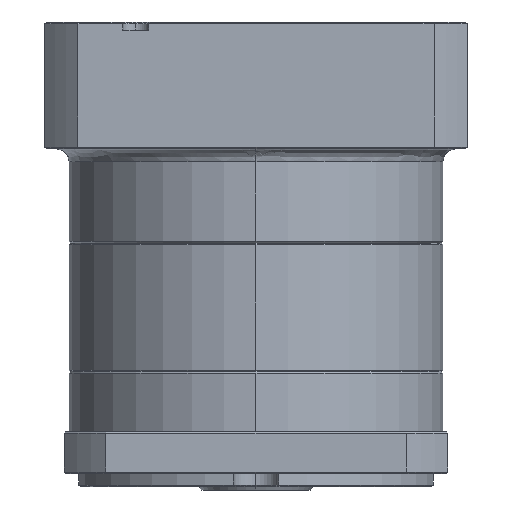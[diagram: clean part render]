
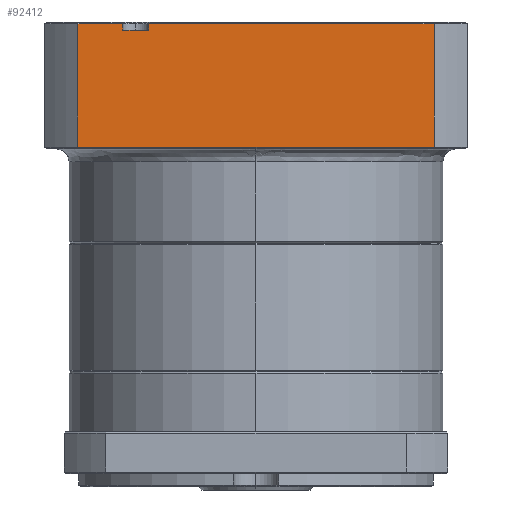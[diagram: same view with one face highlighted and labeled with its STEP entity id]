
A CAD part, left-side view. The second image highlights one B-rep face of the part: STEP entity #92412.
In plain terms, the highlighted planar face has unit normal (-1, 0, 0).
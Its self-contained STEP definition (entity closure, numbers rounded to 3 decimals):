
#991 = CARTESIAN_POINT ( 'NONE',  ( 8.051, 143.547, -0.436 ) ) ;
#2579 = PLANE ( 'NONE',  #85858 ) ;
#6511 = VERTEX_POINT ( 'NONE', #108869 ) ;
#6698 = EDGE_CURVE ( 'NONE', #69181, #25666, #89109, .T. ) ;
#7198 = ORIENTED_EDGE ( 'NONE', *, *, #69486, .F. ) ;
#8583 = CARTESIAN_POINT ( 'NONE',  ( 8.051, 47.775, 1.564 ) ) ;
#9726 = VECTOR ( 'NONE', #94899, 1000. ) ;
#11712 = CARTESIAN_POINT ( 'NONE',  ( 8.051, 47.775, 2.064 ) ) ;
#12366 = LINE ( 'NONE', #41997, #62881 ) ;
#12872 = CARTESIAN_POINT ( 'NONE',  ( 8.051, 47.775, -0.436 ) ) ;
#16288 = EDGE_CURVE ( 'NONE', #25666, #85443, #59418, .T. ) ;
#20433 = LINE ( 'NONE', #104177, #32628 ) ;
#20519 = DIRECTION ( 'NONE',  ( 0., 0., -1. ) ) ;
#23986 = CARTESIAN_POINT ( 'NONE',  ( 8.051, 143.547, 2.064 ) ) ;
#24538 = VERTEX_POINT ( 'NONE', #74307 ) ;
#25666 = VERTEX_POINT ( 'NONE', #991 ) ;
#25994 = LINE ( 'NONE', #86478, #9726 ) ;
#27409 = EDGE_CURVE ( 'NONE', #24538, #28111, #75746, .T. ) ;
#28111 = VERTEX_POINT ( 'NONE', #108158 ) ;
#28720 = LINE ( 'NONE', #52228, #46510 ) ;
#29589 = DIRECTION ( 'NONE',  ( 1., 0., 0. ) ) ;
#29620 = CARTESIAN_POINT ( 'NONE',  ( 8.051, 143.547, 1.564 ) ) ;
#32628 = VECTOR ( 'NONE', #70137, 1000. ) ;
#34260 = EDGE_CURVE ( 'NONE', #77255, #6511, #20433, .T. ) ;
#41504 = DIRECTION ( 'NONE',  ( 0., 0., -1. ) ) ;
#41997 = CARTESIAN_POINT ( 'NONE',  ( 8.051, 47.775, 2.064 ) ) ;
#43867 = ORIENTED_EDGE ( 'NONE', *, *, #70283, .F. ) ;
#46510 = VECTOR ( 'NONE', #87347, 1000. ) ;
#47027 = CARTESIAN_POINT ( 'NONE',  ( 8.051, 157.32, 1.564 ) ) ;
#48032 = FACE_OUTER_BOUND ( 'NONE', #85549, .T. ) ;
#49613 = LINE ( 'NONE', #68923, #82477 ) ;
#52228 = CARTESIAN_POINT ( 'NONE',  ( 8.051, 135.547, 2.064 ) ) ;
#52819 = ORIENTED_EDGE ( 'NONE', *, *, #111337, .F. ) ;
#55292 = CARTESIAN_POINT ( 'NONE',  ( 8.051, 157.32, -36.436 ) ) ;
#59418 = LINE ( 'NONE', #12872, #103164 ) ;
#62881 = VECTOR ( 'NONE', #111210, 1000. ) ;
#65971 = DIRECTION ( 'NONE',  ( 0., -1., 0. ) ) ;
#67495 = VECTOR ( 'NONE', #87952, 1000. ) ;
#68923 = CARTESIAN_POINT ( 'NONE',  ( 8.051, 47.775, 1.564 ) ) ;
#69181 = VERTEX_POINT ( 'NONE', #29620 ) ;
#69486 = EDGE_CURVE ( 'NONE', #71023, #69181, #49613, .T. ) ;
#70137 = DIRECTION ( 'NONE',  ( 0., -1., 0. ) ) ;
#70192 = ORIENTED_EDGE ( 'NONE', *, *, #6698, .F. ) ;
#70283 = EDGE_CURVE ( 'NONE', #77255, #71023, #25994, .T. ) ;
#71023 = VERTEX_POINT ( 'NONE', #47027 ) ;
#74307 = CARTESIAN_POINT ( 'NONE',  ( 8.051, 135.547, 1.564 ) ) ;
#75746 = LINE ( 'NONE', #8583, #67495 ) ;
#77255 = VERTEX_POINT ( 'NONE', #55292 ) ;
#77327 = DIRECTION ( 'NONE',  ( 0., -1., 0. ) ) ;
#82477 = VECTOR ( 'NONE', #77327, 1000. ) ;
#83402 = ORIENTED_EDGE ( 'NONE', *, *, #34260, .T. ) ;
#85443 = VERTEX_POINT ( 'NONE', #92309 ) ;
#85549 = EDGE_LOOP ( 'NONE', ( #83402, #87884, #102519, #52819, #92759, #70192, #7198, #43867 ) ) ;
#85858 = AXIS2_PLACEMENT_3D ( 'NONE', #11712, #29589, #20519 ) ;
#86478 = CARTESIAN_POINT ( 'NONE',  ( 8.051, 157.32, 2.064 ) ) ;
#87347 = DIRECTION ( 'NONE',  ( 0., 0., 1. ) ) ;
#87679 = VECTOR ( 'NONE', #41504, 1000. ) ;
#87884 = ORIENTED_EDGE ( 'NONE', *, *, #96709, .F. ) ;
#87952 = DIRECTION ( 'NONE',  ( 0., -1., 0. ) ) ;
#89109 = LINE ( 'NONE', #23986, #87679 ) ;
#92309 = CARTESIAN_POINT ( 'NONE',  ( 8.051, 135.547, -0.436 ) ) ;
#92412 = ADVANCED_FACE ( 'NONE', ( #48032 ), #2579, .F. ) ;
#92759 = ORIENTED_EDGE ( 'NONE', *, *, #16288, .F. ) ;
#94899 = DIRECTION ( 'NONE',  ( 0., 0., 1. ) ) ;
#96709 = EDGE_CURVE ( 'NONE', #28111, #6511, #12366, .T. ) ;
#102519 = ORIENTED_EDGE ( 'NONE', *, *, #27409, .F. ) ;
#103164 = VECTOR ( 'NONE', #65971, 1000. ) ;
#104177 = CARTESIAN_POINT ( 'NONE',  ( 8.051, 47.775, -36.436 ) ) ;
#108158 = CARTESIAN_POINT ( 'NONE',  ( 8.051, 47.775, 1.564 ) ) ;
#108869 = CARTESIAN_POINT ( 'NONE',  ( 8.051, 47.775, -36.436 ) ) ;
#111210 = DIRECTION ( 'NONE',  ( 0., 0., -1. ) ) ;
#111337 = EDGE_CURVE ( 'NONE', #85443, #24538, #28720, .T. ) ;
